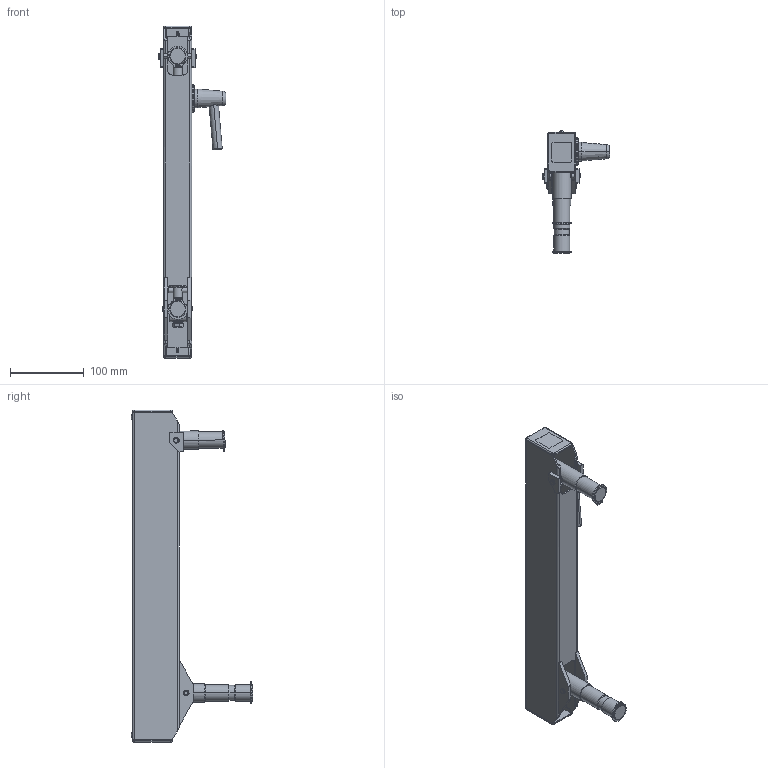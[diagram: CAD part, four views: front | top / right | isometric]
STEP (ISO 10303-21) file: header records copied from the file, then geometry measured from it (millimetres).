
FILE_DESCRIPTION (( 'STEP AP203' ), '1' );
FILE_NAME ('70-1321-00 REV AA, FLEX SECTION, 13.5in, 4-21 LB - HORIZONTAL.STEP', '2025-07-09T23:33:39', ( '' ), ( '' ), 'SwSTEP 2.0', 'SolidWorks 2025', '' );
FILE_SCHEMA (( 'CONFIG_CONTROL_DESIGN' ));
Length unit declared in the file: inch
Products named in the file (32): 71-0030-RX REV AA, KNUCKLE, LOAD_MACHINE; 013-062-00, SPRING, RED, 1x8_ISO425203; 71-0031-RX REV AA, KNUCKLE, MOUNT_MACHINE; 005-084-00, BOLT, 1''4-20x2.75; 71-0029-RX REV AA, TAB, LOAD; 011-033-00; 71-1051-RX REV AA, SPRING BLOCK; 010-011-00, RETAINING RING, EXT, .250 SHAFT_010-011-00; 71-0071-RX REV AA, AXLE PIN, LONG; 002-041-00_002-041-00; 71-1301-BLKX REV AA, FLEX HOUSING, 13.5in, BLACK_Powder Coat; 011-020-00 REV AA, PIN, KNURLED, 1.0LG x .25OD; 11-0601-99 REV AA, CONICAL KNOB, BRAKE ASSEMBLY; 70-1321-00 REV AA, FLEX SECTION, 13.5in, 4-21 LB - HORIZONTAL; 016-070-00, BEARING, PLASTIC, .5ID x .625 OD x .75; 71-1033-RX REV AA, BOLT, ADJUSTING, 10.9; 71-0037-RX REV AA, PIVOT, THREADED; 11-0027-RX REV AA, PLASTIC DISC, BRAKE ASSEMBLY_MACHINE; 71-0972-99 REV AA, END CAP, FLEX; 004-144-00; 11-0650-00 REV AA, BRAKE HANDLE ASSEMBLY; 71-0070-RX REV AA, AXLE PIN, SHORT; 010-012-00, RETAINING RING, EXTERNAL, .875in SHAFT; 11-0602-RX REV AA, HANDLE, BRAKE ASSEMBLY; 006-004-00_006-004-00; 004-050-00, WASHER, FIBER, .032 THK, .265ID; 71-0038-RX REV AA, PIVOT, KNUCKLE, ELECTROLESS NICKEL; 71-1032-RX REV AA, SPRING ROD, 13.5in FLEX; 71-0040-RX REV AA, BRAKE BLOCK, WIDE_MACHINE; 71-0028-RX REV AA, TAB, MOUNT_MACHINE; 71-1300-RX REV AA, HOUSING, 13.5in FLEX; 006-059-00
Assembly tree (52 placements, depth 3):
  70-1321-00 REV AA, FLEX SECTION, 13.5in, 4-21 LB - HORIZONTAL
    71-0031-RX REV AA, KNUCKLE, MOUNT_MACHINE
    71-1032-RX REV AA, SPRING ROD, 13.5in FLEX
    71-0030-RX REV AA, KNUCKLE, LOAD_MACHINE
    71-0038-RX REV AA, PIVOT, KNUCKLE, ELECTROLESS NICKEL
    71-1033-RX REV AA, BOLT, ADJUSTING, 10.9
    71-0037-RX REV AA, PIVOT, THREADED
    71-0040-RX REV AA, BRAKE BLOCK, WIDE_MACHINE
    71-1051-RX REV AA, SPRING BLOCK
    71-0070-RX REV AA, AXLE PIN, SHORT
    11-0027-RX REV AA, PLASTIC DISC, BRAKE ASSEMBLY_MACHINE
    11-0650-00 REV AA, BRAKE HANDLE ASSEMBLY
      11-0601-99 REV AA, CONICAL KNOB, BRAKE ASSEMBLY
      11-0602-RX REV AA, HANDLE, BRAKE ASSEMBLY
      11-0027-RX REV AA, PLASTIC DISC, BRAKE ASSEMBLY_MACHINE
      005-084-00, BOLT, 1''4-20x2.75
    71-1301-BLKX REV AA, FLEX HOUSING, 13.5in, BLACK_Powder Coat
      71-1300-RX REV AA, HOUSING, 13.5in FLEX
      71-0029-RX REV AA, TAB, LOAD  x2
      71-0028-RX REV AA, TAB, MOUNT_MACHINE  x2
    71-0071-RX REV AA, AXLE PIN, LONG
    010-011-00, RETAINING RING, EXT, .250 SHAFT_010-011-00  x4
    71-0972-99 REV AA, END CAP, FLEX  x2
    006-004-00_006-004-00  x2
    002-041-00_002-041-00  x2
    010-012-00, RETAINING RING, EXTERNAL, .875in SHAFT  x2
    011-033-00
    004-050-00, WASHER, FIBER, .032 THK, .265ID  x8
    011-020-00 REV AA, PIN, KNURLED, 1.0LG x .25OD  x2
    004-144-00  x3
    006-059-00
    013-062-00, SPRING, RED, 1x8_ISO425203
    016-070-00, BEARING, PLASTIC, .5ID x .625 OD x .75  x2
Bounding box: 92.23 x 165.23 x 450.6 mm (x, y, z)
Volume: 476674 mm3; surface area: 308124.4 mm2
Topology: 52 solids, 52 shells, 1067 faces, 2610 edges, 1642 vertices
Faces by surface type: cylinder 445, plane 371, cone 176, torus 45, bspline 24, sphere 6
Entity records: 61097 total; most frequent: CARTESIAN_POINT 39917, ORIENTED_EDGE 3614, DIRECTION 3578, EDGE_CURVE 1807, AXIS2_PLACEMENT_3D 1364, VERTEX_POINT 1136, LINE 850, VECTOR 850
